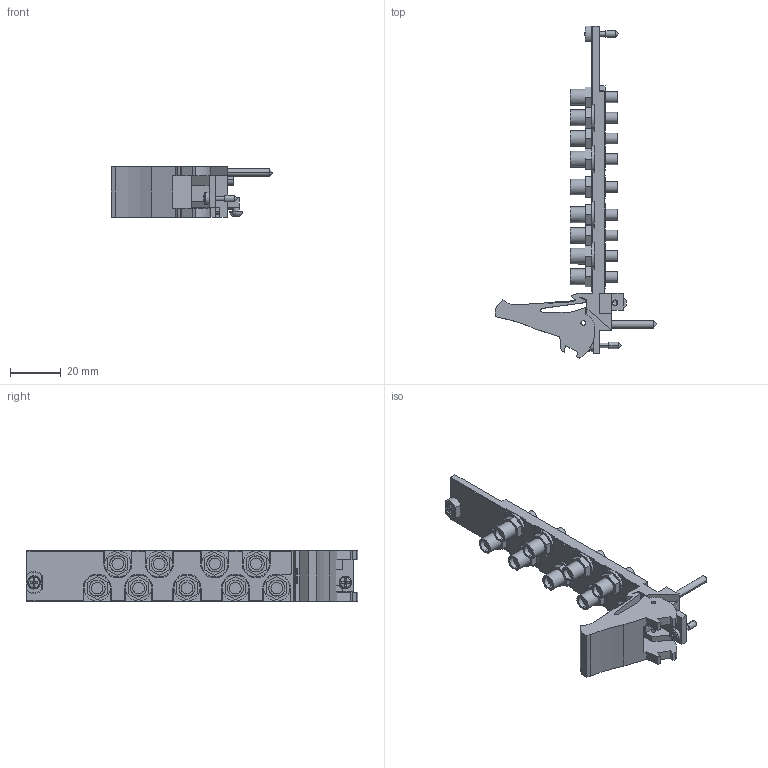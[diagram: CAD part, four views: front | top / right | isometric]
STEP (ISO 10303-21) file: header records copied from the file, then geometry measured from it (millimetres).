
FILE_DESCRIPTION((''),'2;1');
FILE_NAME('CU_PXI-2547','2009-10-06T',('jjorden'),(''),'PRO/ENGINEER BY PARAMETRIC TECHNOLOGY CORPORATION, 2006080','PRO/ENGINEER BY PARAMETRIC TECHNOLOGY CORPORATION, 2006080','');
FILE_SCHEMA(('CONFIG_CONTROL_DESIGN'));
Length unit declared in the file: inch
Products named in the file (1): CU_PXI-2547
Bounding box: 63.53 x 130.43 x 20.02 mm (x, y, z)
Volume: 20257.1 mm3; surface area: 17892.8 mm2
Topology: 1 solids, 1 shells, 810 faces, 2065 edges, 1346 vertices
Faces by surface type: plane 497, cylinder 261, cone 32, sphere 8, torus 6, bspline 6
Entity records: 25175 total; most frequent: CARTESIAN_POINT 4975, DIRECTION 4266, ORIENTED_EDGE 4114, EDGE_CURVE 2057, AXIS2_PLACEMENT_3D 1441, VECTOR 1384, LINE 1384, VERTEX_POINT 1365
